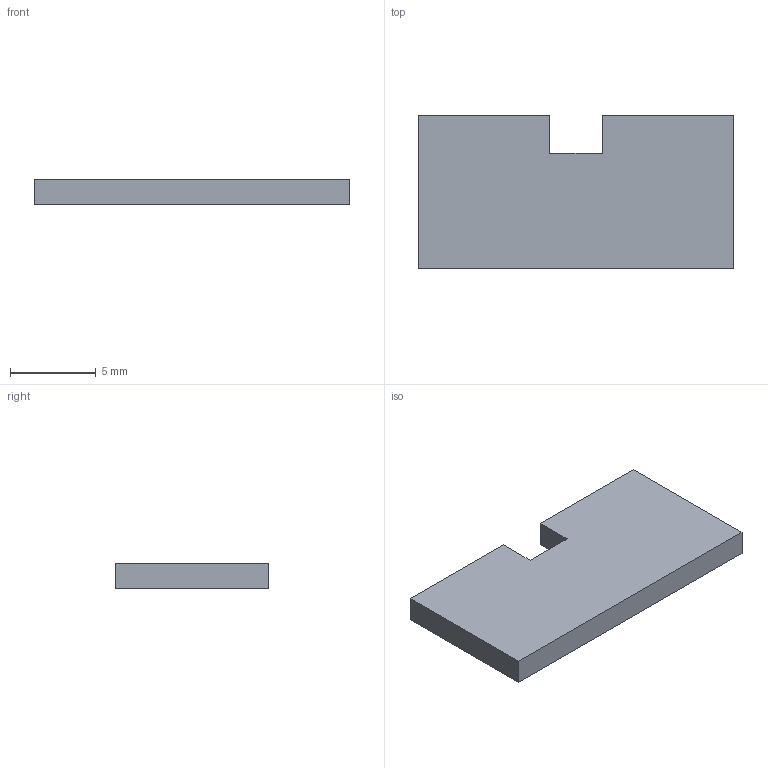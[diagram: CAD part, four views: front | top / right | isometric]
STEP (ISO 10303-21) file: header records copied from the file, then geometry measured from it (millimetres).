
FILE_DESCRIPTION(('KiCad electronic assembly'),'2;1');
FILE_NAME('board.step','2026-04-18T15:17:47',('Pcbnew'),('Kicad'), 'Open CASCADE STEP processor 7.9','KiCad to STEP converter','Unknown' );
FILE_SCHEMA(('AUTOMOTIVE_DESIGN { 1 0 10303 214 1 1 1 1 }'));
Length unit declared in the file: millimetre
Products named in the file (2): board 1; Encoder_Board_PCB
Assembly tree (1 placements, depth 2):
  board 1
    Encoder_Board_PCB
Bounding box: 18.4 x 8.95 x 1.51 mm (x, y, z)
Volume: 238.5 mm3; surface area: 405.2 mm2
Topology: 1 solids, 1 shells, 10 faces, 24 edges, 16 vertices
Faces by surface type: plane 10
Entity records: 325 total; most frequent: CARTESIAN_POINT 52, DIRECTION 48, ORIENTED_EDGE 48, EDGE_CURVE 24, LINE 24, VECTOR 24, VERTEX_POINT 16, AXIS2_PLACEMENT_3D 12
